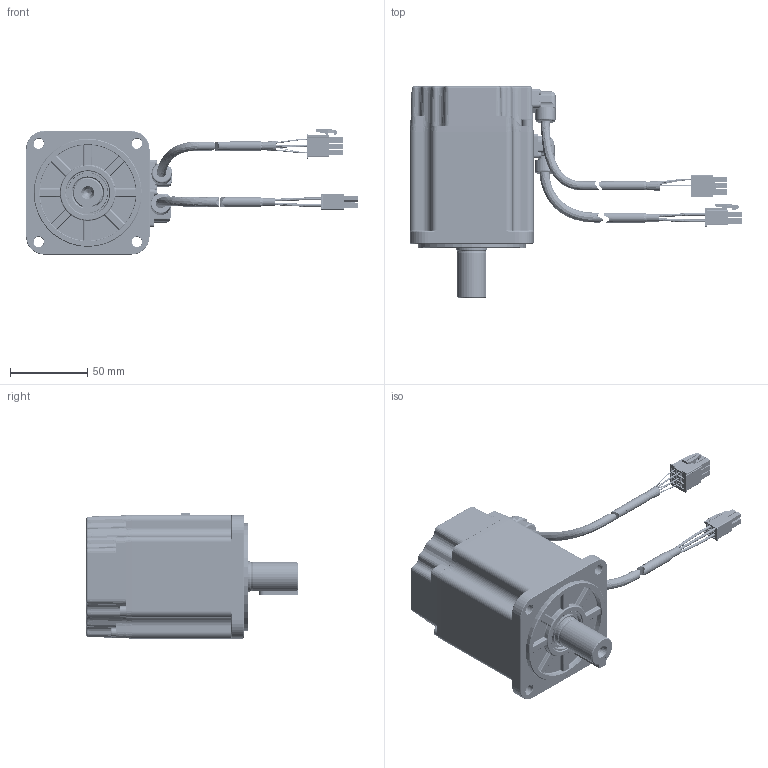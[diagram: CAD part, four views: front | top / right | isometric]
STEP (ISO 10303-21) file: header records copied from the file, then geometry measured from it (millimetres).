
FILE_DESCRIPTION (( 'STEP AP203' ), '1' );
FILE_NAME ('PM2M-08A80S8S&1.STEP', '2024-04-20T02:25:43', ( '' ), ( '' ), 'SwSTEP 2.0', 'SolidWorks 2020', '' );
FILE_SCHEMA (( 'CONFIG_CONTROL_DESIGN' ));
Length unit declared in the file: millimetre
Products named in the file (43): 2010100-0180_内六角圆柱头螺钉-M3x10-8.8级-镀锌镍合金+耐落(GB-T 70.1); 1022500-0深沟球轴承_6004ZZCM-L448（TPI）; 12319400000902_80ﾒｻﾌ蠢ﾇﾃｫﾅYTK08A80DM2MMﾐﾂ; 12319400000651_80ﾒｻﾌ蠢ﾇ_YTK08A80DM2MLﾐﾂ; 2010100-0196_内六角圆柱头螺钉-M3x8-8.8级-镀锌镍合金（黑）+耐落(GB-T 70.1); 1012100-0154_濮揤諉盄傷赽_OT1-2; 1020100-0113_17bit晤鎢ん_SRMA46-17Bit-SYAL-C-5V(88060021); PM2M-08A80S8S&1; 3021200-0019_80后罩壳（黑色）_HZK08A80DM1M-H; 1022900-0063_陓瘍盄嘐隅芛_SC-MC7S-A1-3; 12319400000567_80棠詩_CG08A80DM2; 1022900-0055_80傷窒橈埽_JY08A80DM1; 80编码器成品_80编码器PM2组件; 2010500-0092_す瑩-B6x6x22-湍M3れ瑩蹟恇謂(GB-T 1096-2003); 雄薯盄_PM2M; 2010200-0239_十字自挤螺钉M2x6_十字槽盘头自挤螺钉-M2x6+镀锌镍合金（黑）（GBT 6560）; 零件4^80单瓣定子组件; 1022700-0041_80O型圈_OR08A80DM1; 1030104-0045_4芯线_418AWG  红，白，黑，黄绿; 绕组^80单瓣定子组件D1; 1022700-0043_80躇猾菜_MFD08A80DM1; 80蛌赽傖こ_ZZ10A80I8SDM2M; 80隅赽傖こ_DZ08A80PM2; 1029900-0204_80PCB_PCB10A80DM1; 2010100-0182_内六角圆柱头螺钉-M4x12-8.8级-镀锌镍合金+耐落(GB-T 70.1); 2020700-0180_禁止敲击标签_JQB04A60DM1; 2010200-0209_十字槽小盘头螺钉弹垫平垫组合件-M2x6-8.8级-镀锌镍合金（黑）(GBT 9074 ）; 3024800-0111_80綴傷裔_HDG08A80DM1L; 80等國隅赽郪璃; 2011200-00_疏倛粟銅-41x31x0.25; c-172169-1-l-3d.stp; 1020300-0051_80綴傷裔禱矗_HDG08A80DM1M; 晤鎢ん陓瘍盄; 12919400000223_80粣_Z08A80I8SDM2; 12919400001130_80蛌赽沺郋_ZTX08A80DM2; c-172167-1-m-3d.stp; 12119400000522_80湍渀嘎殤_GJ08A80DM2-02; 2020700-0179_劑豢詢恲梓ワ_GWB04A60DM1; 12119400000521_80拸渀嘎殤_GJ08A80DM2-01; 1022500-0075_深沟球轴承_6201ZZCM-L448（TPI）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
Assembly tree (69 placements, depth 4):
  PM2M-08A80S8S&1
    80隅赽傖こ_DZ08A80PM2
      12319400000651_80ﾒｻﾌ蠢ﾇ_YTK08A80DM2MLﾐﾂ
        12319400000902_80ﾒｻﾌ蠢ﾇﾃｫﾅYTK08A80DM2MMﾐﾂ
      80等國隅赽郪璃  x12
        80隅赽沺郋D1
        12119400000521_80拸渀嘎殤_GJ08A80DM2-01
        12119400000522_80湍渀嘎殤_GJ08A80DM2-02
        绕组^80单瓣定子组件D1
        零件4^80单瓣定子组件
      1029900-0204_80PCB_PCB10A80DM1
      雄薯盄_PM2M
        1022900-0062_雄薯盄嘐隅芛_SC-MC4S-A1-3
        c-172167-1-m-3d.stp
        1030104-0045_4芯线_418AWG  红，白，黑，黄绿
        1012100-0154_濮揤諉盄傷赽_OT1-2
      1022900-0055_80傷窒橈埽_JY08A80DM1
      2010200-0209_十字槽小盘头螺钉弹垫平垫组合件-M2x6-8.8级-镀锌镍合金（黑）(GBT 9074 ）
    80蛌赽傖こ_ZZ10A80I8SDM2M
      12919400000223_80粣_Z08A80I8SDM2
      1022500-0深沟球轴承_6004ZZCM-L448（TPI）
      1022500-0075_深沟球轴承_6201ZZCM-L448（TPI）
      12319400000567_80棠詩_CG08A80DM2  x10
      12919400001130_80蛌赽沺郋_ZTX08A80DM2
    2011200-00_疏倛粟銅-41x31x0.25
    3024800-0111_80綴傷裔_HDG08A80DM1L
      1020300-0051_80綴傷裔禱矗_HDG08A80DM1M
    2010100-0182_内六角圆柱头螺钉-M4x12-8.8级-镀锌镍合金+耐落(GB-T 70.1)  x3
    80编码器成品_80编码器PM2组件
      3021200-0019_80后罩壳（黑色）_HZK08A80DM1M-H
      1022900-0063_陓瘍盄嘐隅芛_SC-MC7S-A1-3
      c-172169-1-l-3d.stp
      2010200-0239_十字自挤螺钉M2x6_十字槽盘头自挤螺钉-M2x6+镀锌镍合金（黑）（GBT 6560）  x4
      晤鎢ん陓瘍盄
    1022700-0041_80O型圈_OR08A80DM1
    1022700-0043_80躇猾菜_MFD08A80DM1
    2010100-0196_内六角圆柱头螺钉-M3x8-8.8级-镀锌镍合金（黑）+耐落(GB-T 70.1)
    2010100-0180_内六角圆柱头螺钉-M3x10-8.8级-镀锌镍合金+耐落(GB-T 70.1)  x2
    1022600-0015_嘎殤蚐猾_TC22327(NAK-NBR)-6004
    2020700-0180_禁止敲击标签_JQB04A60DM1
    2020700-0179_劑豢詢恲梓ワ_GWB04A60DM1
    2010500-0092_す瑩-B6x6x22-湍M3れ瑩蹟恇謂(GB-T 1096-2003)
    1020100-0113_17bit晤鎢ん_SRMA46-17Bit-SYAL-C-5V(88060021)
Bounding box: 215 x 136.9 x 81.01 mm (x, y, z)
Volume: 436820.2 mm3; surface area: 415995.1 mm2
Topology: 661 solids, 661 shells, 22470 faces, 52914 edges, 30490 vertices
Faces by surface type: cylinder 9646, plane 5190, torus 5127, bspline 1395, sphere 562, cone 550
Entity records: 260969 total; most frequent: CARTESIAN_POINT 88437, ORIENTED_EDGE 35828, DIRECTION 33659, EDGE_CURVE 17914, AXIS2_PLACEMENT_3D 11880, VERTEX_POINT 11233, VECTOR 9899, LINE 9899
